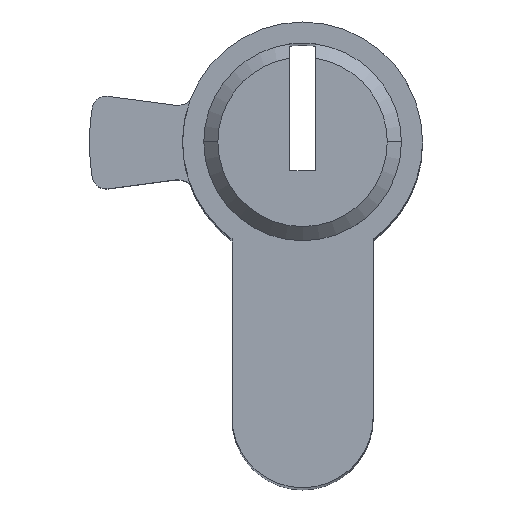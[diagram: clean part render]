
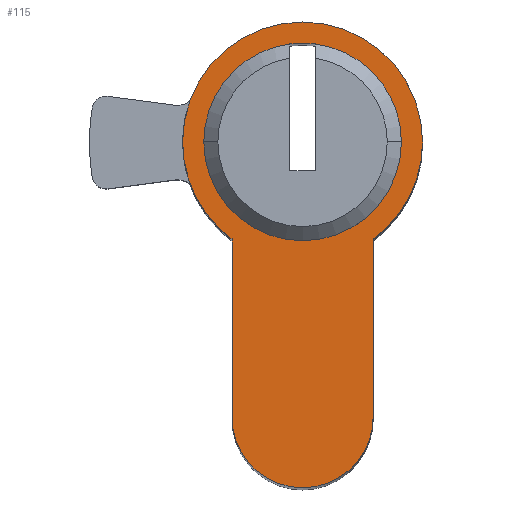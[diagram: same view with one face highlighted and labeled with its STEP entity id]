
A CAD part, top view. The second image highlights one B-rep face of the part: STEP entity #115.
In plain terms, the highlighted planar face has unit normal (0, 0, 1).
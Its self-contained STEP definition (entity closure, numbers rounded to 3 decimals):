
#17 = CIRCLE ( 'NONE', #273, 8.5 ) ;
#80 = FACE_OUTER_BOUND ( 'NONE', #1468, .T. ) ;
#82 = VERTEX_POINT ( 'NONE', #897 ) ;
#115 = ADVANCED_FACE ( 'NONE', ( #1131, #80 ), #486, .T. ) ;
#149 = EDGE_LOOP ( 'NONE', ( #1062, #1051, #1481, #630 ) ) ;
#154 = CARTESIAN_POINT ( 'NONE',  ( -5., -6.874, 30. ) ) ;
#175 = EDGE_CURVE ( 'NONE', #1228, #1197, #1215, .T. ) ;
#208 = CARTESIAN_POINT ( 'NONE',  ( 0., 0., 30. ) ) ;
#234 = DIRECTION ( 'NONE',  ( 1., 0., 0. ) ) ;
#268 = ORIENTED_EDGE ( 'NONE', *, *, #765, .T. ) ;
#273 = AXIS2_PLACEMENT_3D ( 'NONE', #1723, #1418, #606 ) ;
#296 = CIRCLE ( 'NONE', #1624, 8.5 ) ;
#303 = DIRECTION ( 'NONE',  ( 0., 0., 1. ) ) ;
#306 = VERTEX_POINT ( 'NONE', #1414 ) ;
#329 = CIRCLE ( 'NONE', #1572, 7. ) ;
#411 = DIRECTION ( 'NONE',  ( 1., 0., 0. ) ) ;
#442 = DIRECTION ( 'NONE',  ( 1., 0., 0. ) ) ;
#445 = VECTOR ( 'NONE', #934, 1000. ) ;
#449 = AXIS2_PLACEMENT_3D ( 'NONE', #646, #930, #629 ) ;
#450 = CARTESIAN_POINT ( 'NONE',  ( 0., 0., 30. ) ) ;
#486 = PLANE ( 'NONE',  #1704 ) ;
#524 = CIRCLE ( 'NONE', #588, 8.5 ) ;
#529 = CIRCLE ( 'NONE', #1366, 7. ) ;
#536 = ORIENTED_EDGE ( 'NONE', *, *, #680, .T. ) ;
#588 = AXIS2_PLACEMENT_3D ( 'NONE', #982, #1091, #442 ) ;
#606 = DIRECTION ( 'NONE',  ( 1., 0., 0. ) ) ;
#629 = DIRECTION ( 'NONE',  ( 1., 0., 0. ) ) ;
#630 = ORIENTED_EDGE ( 'NONE', *, *, #1470, .F. ) ;
#636 = DIRECTION ( 'NONE',  ( 0., 0., 1. ) ) ;
#646 = CARTESIAN_POINT ( 'NONE',  ( 0., 0., 30. ) ) ;
#658 = EDGE_CURVE ( 'NONE', #1146, #1660, #296, .T. ) ;
#680 = EDGE_CURVE ( 'NONE', #1323, #1146, #524, .T. ) ;
#709 = VECTOR ( 'NONE', #1013, 1000. ) ;
#714 = VERTEX_POINT ( 'NONE', #1145 ) ;
#750 = CARTESIAN_POINT ( 'NONE',  ( -5., -6.874, 30. ) ) ;
#765 = EDGE_CURVE ( 'NONE', #1197, #1323, #17, .T. ) ;
#825 = AXIS2_PLACEMENT_3D ( 'NONE', #1040, #636, #1070 ) ;
#851 = CARTESIAN_POINT ( 'NONE',  ( 0., -19.5, 30. ) ) ;
#862 = VERTEX_POINT ( 'NONE', #1619 ) ;
#867 = ORIENTED_EDGE ( 'NONE', *, *, #658, .T. ) ;
#894 = DIRECTION ( 'NONE',  ( 1., 0., 0. ) ) ;
#897 = CARTESIAN_POINT ( 'NONE',  ( -0.9, 6.942, 30. ) ) ;
#910 = CARTESIAN_POINT ( 'NONE',  ( 8.5, 0., 30. ) ) ;
#930 = DIRECTION ( 'NONE',  ( 0., 0., 1. ) ) ;
#934 = DIRECTION ( 'NONE',  ( 0., 1., 0. ) ) ;
#982 = CARTESIAN_POINT ( 'NONE',  ( 0., 0., 30. ) ) ;
#999 = DIRECTION ( 'NONE',  ( 0., 0., 1. ) ) ;
#1013 = DIRECTION ( 'NONE',  ( 0., -1., 0. ) ) ;
#1040 = CARTESIAN_POINT ( 'NONE',  ( 0., 0., 30. ) ) ;
#1041 = ORIENTED_EDGE ( 'NONE', *, *, #1716, .T. ) ;
#1051 = ORIENTED_EDGE ( 'NONE', *, *, #1437, .F. ) ;
#1062 = ORIENTED_EDGE ( 'NONE', *, *, #1296, .F. ) ;
#1070 = DIRECTION ( 'NONE',  ( 1., 0., 0. ) ) ;
#1083 = ORIENTED_EDGE ( 'NONE', *, *, #1189, .T. ) ;
#1091 = DIRECTION ( 'NONE',  ( 0., 0., 1. ) ) ;
#1111 = ORIENTED_EDGE ( 'NONE', *, *, #175, .T. ) ;
#1122 = DIRECTION ( 'NONE',  ( 1., 0., 0. ) ) ;
#1131 = FACE_BOUND ( 'NONE', #149, .T. ) ;
#1145 = CARTESIAN_POINT ( 'NONE',  ( 7., 0., 30. ) ) ;
#1146 = VERTEX_POINT ( 'NONE', #1706 ) ;
#1165 = LINE ( 'NONE', #750, #709 ) ;
#1189 = EDGE_CURVE ( 'NONE', #1660, #1351, #1165, .T. ) ;
#1197 = VERTEX_POINT ( 'NONE', #1557 ) ;
#1215 = LINE ( 'NONE', #1608, #445 ) ;
#1218 = CIRCLE ( 'NONE', #1454, 5. ) ;
#1228 = VERTEX_POINT ( 'NONE', #1289 ) ;
#1289 = CARTESIAN_POINT ( 'NONE',  ( 5., -19.5, 30. ) ) ;
#1296 = EDGE_CURVE ( 'NONE', #862, #82, #529, .T. ) ;
#1323 = VERTEX_POINT ( 'NONE', #910 ) ;
#1351 = VERTEX_POINT ( 'NONE', #1467 ) ;
#1366 = AXIS2_PLACEMENT_3D ( 'NONE', #208, #1735, #234 ) ;
#1374 = CIRCLE ( 'NONE', #825, 7. ) ;
#1406 = DIRECTION ( 'NONE',  ( 0., 0., 1. ) ) ;
#1414 = CARTESIAN_POINT ( 'NONE',  ( -7., 0., 30. ) ) ;
#1418 = DIRECTION ( 'NONE',  ( 0., 0., 1. ) ) ;
#1437 = EDGE_CURVE ( 'NONE', #714, #862, #1374, .T. ) ;
#1454 = AXIS2_PLACEMENT_3D ( 'NONE', #851, #303, #1122 ) ;
#1467 = CARTESIAN_POINT ( 'NONE',  ( -5., -19.5, 30. ) ) ;
#1468 = EDGE_LOOP ( 'NONE', ( #268, #536, #867, #1083, #1041, #1111 ) ) ;
#1470 = EDGE_CURVE ( 'NONE', #82, #306, #329, .T. ) ;
#1481 = ORIENTED_EDGE ( 'NONE', *, *, #1527, .F. ) ;
#1527 = EDGE_CURVE ( 'NONE', #306, #714, #1774, .T. ) ;
#1546 = CARTESIAN_POINT ( 'NONE',  ( 0., 0., 30. ) ) ;
#1557 = CARTESIAN_POINT ( 'NONE',  ( 5., -6.874, 30. ) ) ;
#1572 = AXIS2_PLACEMENT_3D ( 'NONE', #1612, #1586, #894 ) ;
#1581 = DIRECTION ( 'NONE',  ( 1., 0., 0. ) ) ;
#1586 = DIRECTION ( 'NONE',  ( 0., 0., 1. ) ) ;
#1608 = CARTESIAN_POINT ( 'NONE',  ( 5., -19.5, 30. ) ) ;
#1612 = CARTESIAN_POINT ( 'NONE',  ( 0., 0., 30. ) ) ;
#1619 = CARTESIAN_POINT ( 'NONE',  ( 0.9, 6.942, 30. ) ) ;
#1624 = AXIS2_PLACEMENT_3D ( 'NONE', #1546, #1406, #411 ) ;
#1660 = VERTEX_POINT ( 'NONE', #154 ) ;
#1704 = AXIS2_PLACEMENT_3D ( 'NONE', #450, #999, #1581 ) ;
#1706 = CARTESIAN_POINT ( 'NONE',  ( -8.5, 0., 30. ) ) ;
#1716 = EDGE_CURVE ( 'NONE', #1351, #1228, #1218, .T. ) ;
#1723 = CARTESIAN_POINT ( 'NONE',  ( 0., 0., 30. ) ) ;
#1735 = DIRECTION ( 'NONE',  ( 0., 0., 1. ) ) ;
#1774 = CIRCLE ( 'NONE', #449, 7. ) ;
